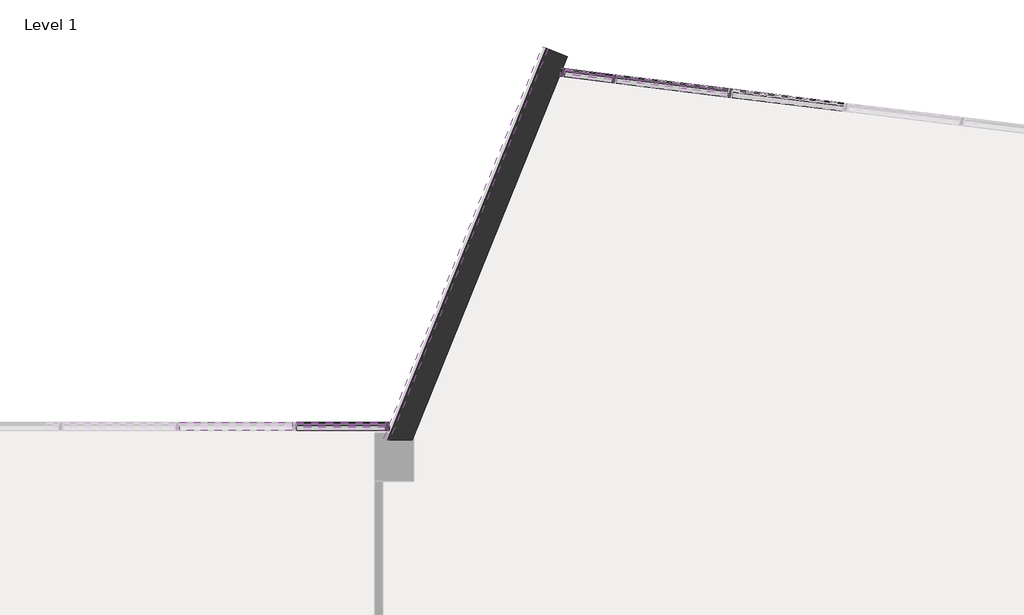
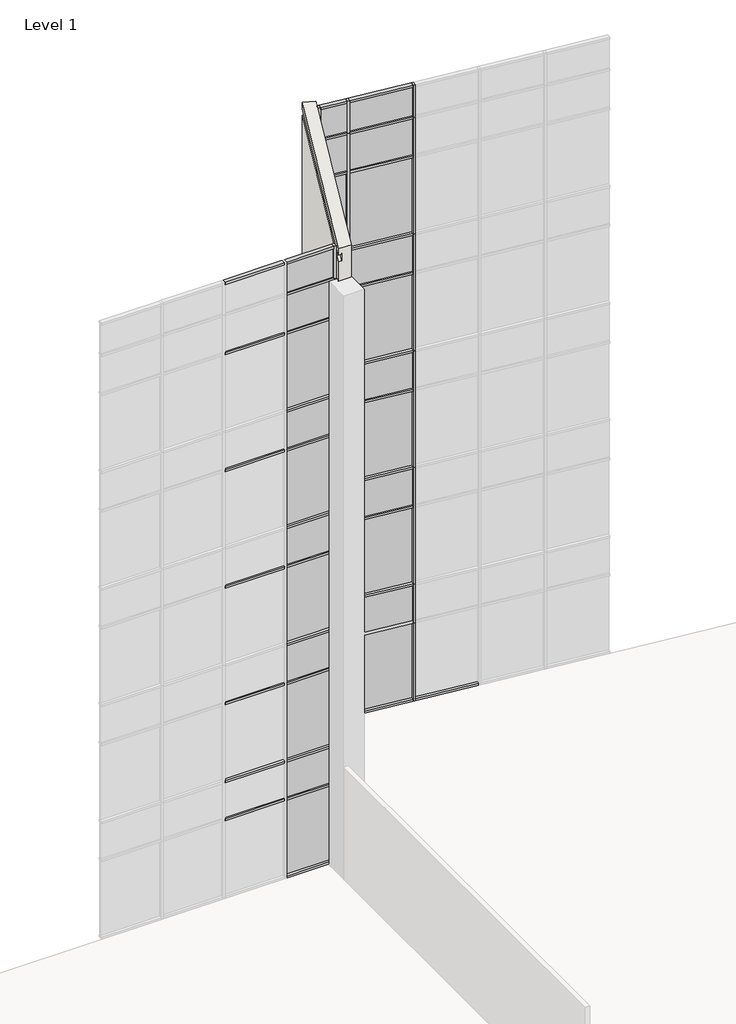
# One storey, part 15 of 23: 71 members, 33 plates, 3 proxies, 1 wall.
"""IFC4 building model written with IfcOpenShell, lengths in millimetres."""

from ifc_helpers import new_model, si_unit, frame, origin, place, context, project, spatial, polyline, outline, extrude, faceted_brep, transform, mapped, element, save
from components import member_2b49869a, member_f92b8aa2, member_810865a4, member_f0fea5a5, member_6d5c3e5e, member_9764dd38, member_8e09d03a, member_4d31274b, member_9db209c3, member_bbc63846, member_ee409385, member_75074519, member_2adbf4d9, member_705e9429, system_panel_glazed_14c75400, system_panel_glazed_df53f363, system_panel_glazed_6d390525, system_panel_solid_5dfe6f83, system_panel_solid_e25e2004, system_panel_solid_b7551183, system_panel_solid_cf908f75, system_panel_solid_7b03d3b8, system_panel_solid_c28df52d, system_panel_solid_db451ef0, system_panel_solid_2f6d7fa1, system_panel_solid_37f52b2b

model = new_model("IFC4")

# Units and contexts
model_context = context("Model", 3, world=origin())
ifc_project = project(units=[si_unit("LENGTHUNIT", "METRE", prefix="MILLI")], contexts=[model_context])

# Site, building, storey
site = spatial("IfcSite", under=ifc_project)
building = spatial("IfcBuilding", under=site)
storey = spatial("IfcBuildingStorey", under=building, Name="Level 1", Elevation=0.0)

# Proxies
placement = place(None, origin())
element("IfcBuildingElementProxy", 1, Name="Reveals", at=placement, inside=storey, context=model_context, shape_type="SweptSolid", body=[
    extrude(outline(polyline([(-32824.629873, 9795.5496433), (-32910.0003265, 9830.0415454), (-30426.2719644, 15977.4849617), (-30340.901511, 15942.9930596), (-32824.629873, 9795.5496433)])), frame((0.0, 0.0, 1625.6), z_axis=(0.0, 0.0, 1.0), x_axis=(1.0, 0.0, 0.0)), (0.0, 0.0, 1.0), 67.7333333),
])
element("IfcBuildingElementProxy", 2, Name="Reveals", at=placement, inside=storey, context=model_context, shape_type="SweptSolid", body=[
    extrude(outline(polyline([(-32824.629873, 9795.5496433), (-32910.0003265, 9830.0415454), (-30426.2719644, 15977.4849617), (-30340.901511, 15942.9930596), (-32824.629873, 9795.5496433)])), frame((0.0, 0.0, 2235.2), z_axis=(0.0, 0.0, 1.0), x_axis=(1.0, 0.0, 0.0)), (0.0, 0.0, 1.0), 67.7333333),
])
element("IfcBuildingElementProxy", 3, Name="Reveals", at=placement, inside=storey, context=model_context, shape_type="SweptSolid", body=[
    extrude(outline(polyline([(-32824.629873, 9795.5496433), (-32910.0003265, 9830.0415454), (-30426.2719644, 15977.4849617), (-30340.901511, 15942.9930596), (-32824.629873, 9795.5496433)])), frame((0.0, 0.0, 2844.8), z_axis=(0.0, 0.0, 1.0), x_axis=(1.0, 0.0, 0.0)), (0.0, 0.0, 1.0), 67.7333333),
])

# Members
member_shape = member_2b49869a(model_context)
element("IfcMember", 4, ObjectType="Rectangular Mullion : 2.5\" x 5\" rectangular", at=placement, inside=storey, context=model_context, shape_type="MappedRepresentation", body=[
    mapped(member_shape, transform((-27482.5203826, 15245.7903744, 2438.4), x_axis=(0.9925461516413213, -0.12186934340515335, 0.0), y_axis=(-0.12186934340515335, -0.9925461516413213, 0.0), z_axis=(0.0, 0.0, -1.0))),
])
element("IfcMember", 5, ObjectType="Rectangular Mullion : 2.5\" x 5\" rectangular", at=placement, inside=storey, context=model_context, shape_type="MappedRepresentation", body=[
    mapped(member_shape, transform((-29297.6887847, 15468.6650296, 2438.4), x_axis=(0.9925461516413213, -0.12186934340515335, 0.0), y_axis=(-0.12186934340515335, -0.9925461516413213, 0.0), z_axis=(0.0, 0.0, -1.0))),
])
member_2_shape = member_f92b8aa2(model_context)
element("IfcMember", 6, ObjectType="Rectangular Mullion : 2.5\" x 5\" rectangular", at=placement, inside=storey, context=model_context, shape_type="MappedRepresentation", body=[
    mapped(member_2_shape, transform((-27482.5203826, 15245.7903744, 18288.0), x_axis=(0.9925461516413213, -0.12186934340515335, 0.0), y_axis=(-0.12186934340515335, -0.9925461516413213, 0.0), z_axis=(0.0, 0.0, -1.0))),
])
element("IfcMember", 7, ObjectType="Rectangular Mullion : 2.5\" x 5\" rectangular", at=placement, inside=storey, context=model_context, shape_type="MappedRepresentation", body=[
    mapped(member_2_shape, transform((-29297.6887847, 15468.6650296, 18288.0), x_axis=(0.9925461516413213, -0.12186934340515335, 0.0), y_axis=(-0.12186934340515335, -0.9925461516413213, 0.0), z_axis=(0.0, 0.0, -1.0))),
])
member_3_shape = member_810865a4(model_context)
element("IfcMember", 8, ObjectType="Rectangular Mullion : 2.5\" x 5\" rectangular", at=placement, inside=storey, context=model_context, shape_type="MappedRepresentation", body=[
    mapped(member_3_shape, transform((-27482.5203826, 15245.7903744, 14630.4), x_axis=(0.9925461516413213, -0.12186934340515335, 0.0), y_axis=(-0.12186934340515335, -0.9925461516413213, 0.0), z_axis=(0.0, 0.0, -1.0))),
])
element("IfcMember", 9, ObjectType="Rectangular Mullion : 2.5\" x 5\" rectangular", at=placement, inside=storey, context=model_context, shape_type="MappedRepresentation", body=[
    mapped(member_3_shape, transform((-27482.5203826, 15245.7903744, 10972.8), x_axis=(0.9925461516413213, -0.12186934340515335, 0.0), y_axis=(-0.12186934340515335, -0.9925461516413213, 0.0), z_axis=(0.0, 0.0, -1.0))),
])
element("IfcMember", 10, ObjectType="Rectangular Mullion : 2.5\" x 5\" rectangular", at=placement, inside=storey, context=model_context, shape_type="MappedRepresentation", body=[
    mapped(member_3_shape, transform((-27482.5203826, 15245.7903744, 7315.2), x_axis=(0.9925461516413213, -0.12186934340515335, 0.0), y_axis=(-0.12186934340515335, -0.9925461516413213, 0.0), z_axis=(0.0, 0.0, -1.0))),
])
element("IfcMember", 11, ObjectType="Rectangular Mullion : 2.5\" x 5\" rectangular", at=placement, inside=storey, context=model_context, shape_type="MappedRepresentation", body=[
    mapped(member_3_shape, transform((-27482.5203826, 15245.7903744, 3657.6), x_axis=(0.9925461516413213, -0.12186934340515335, 0.0), y_axis=(-0.12186934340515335, -0.9925461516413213, 0.0), z_axis=(0.0, 0.0, -1.0))),
])
element("IfcMember", 12, ObjectType="Rectangular Mullion : 2.5\" x 5\" rectangular", at=placement, inside=storey, context=model_context, shape_type="MappedRepresentation", body=[
    mapped(member_3_shape, transform((-29297.6887847, 15468.6650296, 14630.4), x_axis=(0.9925461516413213, -0.12186934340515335, 0.0), y_axis=(-0.12186934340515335, -0.9925461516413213, 0.0), z_axis=(0.0, 0.0, -1.0))),
])
element("IfcMember", 13, ObjectType="Rectangular Mullion : 2.5\" x 5\" rectangular", at=placement, inside=storey, context=model_context, shape_type="MappedRepresentation", body=[
    mapped(member_3_shape, transform((-29297.6887847, 15468.6650296, 10972.8), x_axis=(0.9925461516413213, -0.12186934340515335, 0.0), y_axis=(-0.12186934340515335, -0.9925461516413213, 0.0), z_axis=(0.0, 0.0, -1.0))),
])
element("IfcMember", 14, ObjectType="Rectangular Mullion : 2.5\" x 5\" rectangular", at=placement, inside=storey, context=model_context, shape_type="MappedRepresentation", body=[
    mapped(member_3_shape, transform((-29297.6887847, 15468.6650296, 7315.2), x_axis=(0.9925461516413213, -0.12186934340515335, 0.0), y_axis=(-0.12186934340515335, -0.9925461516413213, 0.0), z_axis=(0.0, 0.0, -1.0))),
])
element("IfcMember", 15, ObjectType="Rectangular Mullion : 2.5\" x 5\" rectangular", at=placement, inside=storey, context=model_context, shape_type="MappedRepresentation", body=[
    mapped(member_3_shape, transform((-29297.6887847, 15468.6650296, 3657.6), x_axis=(0.9925461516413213, -0.12186934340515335, 0.0), y_axis=(-0.12186934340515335, -0.9925461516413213, 0.0), z_axis=(0.0, 0.0, -1.0))),
])
member_4_shape = member_f0fea5a5(model_context)
element("IfcMember", 16, ObjectType="Rectangular Mullion : 2.5\" x 5\" rectangular", at=placement, inside=storey, context=model_context, shape_type="MappedRepresentation", body=[
    mapped(member_4_shape, transform((-27482.5203826, 15245.7903744, 0.0), x_axis=(0.9925461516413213, -0.12186934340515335, 0.0), y_axis=(-0.12186934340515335, -0.9925461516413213, 0.0), z_axis=(0.0, 0.0, -1.0))),
])
element("IfcMember", 17, ObjectType="Rectangular Mullion : 2.5\" x 5\" rectangular", at=placement, inside=storey, context=model_context, shape_type="MappedRepresentation", body=[
    mapped(member_4_shape, transform((-29297.6887847, 15468.6650296, 0.0), x_axis=(0.9925461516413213, -0.12186934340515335, 0.0), y_axis=(-0.12186934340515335, -0.9925461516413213, 0.0), z_axis=(0.0, 0.0, -1.0))),
])
member_5_shape = member_6d5c3e5e(model_context)
element("IfcMember", 18, ObjectType="Rectangular Mullion : 2.5\" x 5\" rectangular", at=placement, inside=storey, context=model_context, shape_type="MappedRepresentation", body=[
    mapped(member_5_shape, transform((-27514.0337229, 15249.659726, 19304.0), x_axis=(0.0, 0.0, 1.0), y_axis=(-0.12186934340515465, -0.9925461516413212, 0.0), z_axis=(0.9925461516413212, -0.12186934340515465, 0.0))),
])
element("IfcMember", 19, ObjectType="Rectangular Mullion : 2.5\" x 5\" rectangular", at=placement, inside=storey, context=model_context, shape_type="MappedRepresentation", body=[
    mapped(member_5_shape, transform((-34348.0123649, 10017.7896508, 19304.0), x_axis=(0.0, 0.0, 1.0), y_axis=(0.0, -1.0, 0.0), z_axis=(1.0, 0.0, 0.0))),
])
member_6_shape = member_9764dd38(model_context)
element("IfcMember", 20, ObjectType="Rectangular Mullion : 2.5\" x 5\" rectangular", at=placement, inside=storey, context=model_context, shape_type="MappedRepresentation", body=[
    mapped(member_6_shape, transform((-34348.0123649, 10017.7896508, 17068.8), x_axis=(0.0, 0.0, 1.0), y_axis=(0.0, -1.0, 0.0), z_axis=(1.0, 0.0, 0.0))),
])
element("IfcMember", 21, ObjectType="Rectangular Mullion : 2.5\" x 5\" rectangular", at=placement, inside=storey, context=model_context, shape_type="MappedRepresentation", body=[
    mapped(member_6_shape, transform((-34348.0123649, 10017.7896508, 13411.2), x_axis=(0.0, 0.0, 1.0), y_axis=(0.0, -1.0, 0.0), z_axis=(1.0, 0.0, 0.0))),
])
element("IfcMember", 22, ObjectType="Rectangular Mullion : 2.5\" x 5\" rectangular", at=placement, inside=storey, context=model_context, shape_type="MappedRepresentation", body=[
    mapped(member_6_shape, transform((-34348.0123649, 10017.7896508, 9753.6), x_axis=(0.0, 0.0, 1.0), y_axis=(0.0, -1.0, 0.0), z_axis=(1.0, 0.0, 0.0))),
])
element("IfcMember", 23, ObjectType="Rectangular Mullion : 2.5\" x 5\" rectangular", at=placement, inside=storey, context=model_context, shape_type="MappedRepresentation", body=[
    mapped(member_6_shape, transform((-34348.0123649, 10017.7896508, 6096.0), x_axis=(0.0, 0.0, 1.0), y_axis=(0.0, -1.0, 0.0), z_axis=(1.0, 0.0, 0.0))),
])
element("IfcMember", 24, ObjectType="Rectangular Mullion : 2.5\" x 5\" rectangular", at=placement, inside=storey, context=model_context, shape_type="MappedRepresentation", body=[
    mapped(member_6_shape, transform((-34348.0123649, 10017.7896508, 2470.15), x_axis=(0.0, 0.0, 1.0), y_axis=(0.0, -1.0, 0.0), z_axis=(1.0, 0.0, 0.0))),
])
element("IfcMember", 25, ObjectType="Rectangular Mullion : 2.5\" x 5\" rectangular", at=placement, inside=storey, context=model_context, shape_type="MappedRepresentation", body=[
    mapped(member_6_shape, transform((-27514.0337229, 15249.659726, 17068.8), x_axis=(0.0, 0.0, 1.0), y_axis=(-0.12186934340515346, -0.9925461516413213, 0.0), z_axis=(0.9925461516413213, -0.12186934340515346, 0.0))),
])
element("IfcMember", 26, ObjectType="Rectangular Mullion : 2.5\" x 5\" rectangular", at=placement, inside=storey, context=model_context, shape_type="MappedRepresentation", body=[
    mapped(member_6_shape, transform((-27514.0337229, 15249.659726, 13411.2), x_axis=(0.0, 0.0, 1.0), y_axis=(-0.12186934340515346, -0.9925461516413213, 0.0), z_axis=(0.9925461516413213, -0.12186934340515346, 0.0))),
])
element("IfcMember", 27, ObjectType="Rectangular Mullion : 2.5\" x 5\" rectangular", at=placement, inside=storey, context=model_context, shape_type="MappedRepresentation", body=[
    mapped(member_6_shape, transform((-27514.0337229, 15249.659726, 9753.6), x_axis=(0.0, 0.0, 1.0), y_axis=(-0.12186934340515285, -0.9925461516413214, 0.0), z_axis=(0.9925461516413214, -0.12186934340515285, 0.0))),
])
element("IfcMember", 28, ObjectType="Rectangular Mullion : 2.5\" x 5\" rectangular", at=placement, inside=storey, context=model_context, shape_type="MappedRepresentation", body=[
    mapped(member_6_shape, transform((-27514.0337229, 15249.659726, 6096.0), x_axis=(0.0, 0.0, 1.0), y_axis=(-0.12186934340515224, -0.9925461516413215, 0.0), z_axis=(0.9925461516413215, -0.12186934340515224, 0.0))),
])
element("IfcMember", 29, ObjectType="Rectangular Mullion : 2.5\" x 5\" rectangular", at=placement, inside=storey, context=model_context, shape_type="MappedRepresentation", body=[
    mapped(member_5_shape, transform((-27451.0070423, 15241.9210227, 0.0), x_axis=(0.0, 0.0, -1.0), y_axis=(-0.12186934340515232, -0.9925461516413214, 0.0), z_axis=(-0.9925461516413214, 0.12186934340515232, 0.0))),
])
element("IfcMember", 30, ObjectType="Rectangular Mullion : 2.5\" x 5\" rectangular", at=placement, inside=storey, context=model_context, shape_type="MappedRepresentation", body=[
    mapped(member_5_shape, transform((-29266.1754444, 15464.7956779, 0.0), x_axis=(0.0, 0.0, -1.0), y_axis=(-0.12186934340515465, -0.9925461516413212, 0.0), z_axis=(-0.9925461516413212, 0.12186934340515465, 0.0))),
])
element("IfcMember", 31, ObjectType="Rectangular Mullion : 2.5\" x 5\" rectangular", at=placement, inside=storey, context=model_context, shape_type="MappedRepresentation", body=[
    mapped(member_6_shape, transform((-27514.0337229, 15249.659726, 10972.8), x_axis=(0.0, 0.0, 1.0), y_axis=(-0.12186934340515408, -0.9925461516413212, 0.0), z_axis=(0.9925461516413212, -0.12186934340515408, 0.0))),
])
element("IfcMember", 32, ObjectType="Rectangular Mullion : 2.5\" x 5\" rectangular", at=placement, inside=storey, context=model_context, shape_type="MappedRepresentation", body=[
    mapped(member_6_shape, transform((-27514.0337229, 15249.659726, 7315.2), x_axis=(0.0, 0.0, 1.0), y_axis=(-0.12186934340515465, -0.9925461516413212, 0.0), z_axis=(0.9925461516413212, -0.12186934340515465, 0.0))),
])
element("IfcMember", 33, ObjectType="Rectangular Mullion : 2.5\" x 5\" rectangular", at=placement, inside=storey, context=model_context, shape_type="MappedRepresentation", body=[
    mapped(member_6_shape, transform((-27514.0337229, 15249.659726, 18288.0), x_axis=(0.0, 0.0, 1.0), y_axis=(-0.12186934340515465, -0.9925461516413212, 0.0), z_axis=(0.9925461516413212, -0.12186934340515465, 0.0))),
])
element("IfcMember", 34, ObjectType="Rectangular Mullion : 2.5\" x 5\" rectangular", at=placement, inside=storey, context=model_context, shape_type="MappedRepresentation", body=[
    mapped(member_6_shape, transform((-27514.0337229, 15249.659726, 14630.4), x_axis=(0.0, 0.0, 1.0), y_axis=(-0.12186934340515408, -0.9925461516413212, 0.0), z_axis=(0.9925461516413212, -0.12186934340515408, 0.0))),
])
element("IfcMember", 35, ObjectType="Rectangular Mullion : 2.5\" x 5\" rectangular", at=placement, inside=storey, context=model_context, shape_type="MappedRepresentation", body=[
    mapped(member_6_shape, transform((-27514.0337229, 15249.659726, 3657.6), x_axis=(0.0, 0.0, 1.0), y_axis=(-0.12186934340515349, -0.9925461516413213, 0.0), z_axis=(0.9925461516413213, -0.12186934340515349, 0.0))),
])
element("IfcMember", 36, ObjectType="Rectangular Mullion : 2.5\" x 5\" rectangular", at=placement, inside=storey, context=model_context, shape_type="MappedRepresentation", body=[
    mapped(member_6_shape, transform((-34348.0123649, 10017.7896508, 3657.6), x_axis=(0.0, 0.0, 1.0), y_axis=(0.0, -1.0, 0.0), z_axis=(1.0, 0.0, 0.0))),
])
member_7_shape = member_8e09d03a(model_context)
element("IfcMember", 37, ObjectType="Rectangular Mullion : 2.5\" x 5\" rectangular", at=placement, inside=storey, context=model_context, shape_type="MappedRepresentation", body=[
    mapped(member_7_shape, transform((-30138.1413273, 15571.859626, 19304.0), x_axis=(-0.9925461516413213, 0.12186934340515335, 0.0), y_axis=(-0.12186934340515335, -0.9925461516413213, 0.0), z_axis=(0.0, 0.0, 1.0))),
])
member_8_shape = member_4d31274b(model_context)
element("IfcMember", 38, ObjectType="Rectangular Mullion : 2.5\" x 5\" rectangular", at=placement, inside=storey, context=model_context, shape_type="MappedRepresentation", body=[
    mapped(member_8_shape, transform((-30138.1413273, 15571.859626, 7315.2), x_axis=(-0.9925461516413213, 0.12186934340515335, 0.0), y_axis=(-0.12186934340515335, -0.9925461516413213, 0.0), z_axis=(0.0, 0.0, 1.0))),
])
element("IfcMember", 39, ObjectType="Rectangular Mullion : 2.5\" x 5\" rectangular", at=placement, inside=storey, context=model_context, shape_type="MappedRepresentation", body=[
    mapped(member_8_shape, transform((-30138.1413273, 15571.859626, 10972.8), x_axis=(-0.9925461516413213, 0.12186934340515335, 0.0), y_axis=(-0.12186934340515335, -0.9925461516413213, 0.0), z_axis=(0.0, 0.0, 1.0))),
])
element("IfcMember", 40, ObjectType="Rectangular Mullion : 2.5\" x 5\" rectangular", at=placement, inside=storey, context=model_context, shape_type="MappedRepresentation", body=[
    mapped(member_8_shape, transform((-30138.1413273, 15571.859626, 14630.4), x_axis=(-0.9925461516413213, 0.12186934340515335, 0.0), y_axis=(-0.12186934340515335, -0.9925461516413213, 0.0), z_axis=(0.0, 0.0, 1.0))),
])
element("IfcMember", 41, ObjectType="Rectangular Mullion : 2.5\" x 5\" rectangular", at=placement, inside=storey, context=model_context, shape_type="MappedRepresentation", body=[
    mapped(member_8_shape, transform((-30138.1413273, 15571.859626, 18288.0), x_axis=(-0.9925461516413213, 0.12186934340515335, 0.0), y_axis=(-0.12186934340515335, -0.9925461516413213, 0.0), z_axis=(0.0, 0.0, 1.0))),
])
member_9_shape = member_9db209c3(model_context)
element("IfcMember", 42, ObjectType="Rectangular Mullion : 2.5\" x 5\" rectangular", at=placement, inside=storey, context=model_context, shape_type="MappedRepresentation", body=[
    mapped(member_9_shape, transform((-32890.1647338, 10017.7896508, 10972.8), x_axis=(0.0, 0.0, 1.0), y_axis=(0.0, -1.0, 0.0), z_axis=(1.0, 0.0, 0.0))),
])
element("IfcMember", 43, ObjectType="Rectangular Mullion : 2.5\" x 5\" rectangular", at=placement, inside=storey, context=model_context, shape_type="MappedRepresentation", body=[
    mapped(member_9_shape, transform((-32890.1647338, 10017.7896508, 7315.2), x_axis=(0.0, 0.0, 1.0), y_axis=(0.0, -1.0, 0.0), z_axis=(1.0, 0.0, 0.0))),
])
element("IfcMember", 44, ObjectType="Rectangular Mullion : 2.5\" x 5\" rectangular", at=placement, inside=storey, context=model_context, shape_type="MappedRepresentation", body=[
    mapped(member_9_shape, transform((-32890.1647338, 10017.7896508, 18288.0), x_axis=(0.0, 0.0, 1.0), y_axis=(0.0, -1.0, 0.0), z_axis=(1.0, 0.0, 0.0))),
])
element("IfcMember", 45, ObjectType="Rectangular Mullion : 2.5\" x 5\" rectangular", at=placement, inside=storey, context=model_context, shape_type="MappedRepresentation", body=[
    mapped(member_9_shape, transform((-32890.1647338, 10017.7896508, 14630.4), x_axis=(0.0, 0.0, 1.0), y_axis=(0.0, -1.0, 0.0), z_axis=(1.0, 0.0, 0.0))),
])
element("IfcMember", 46, ObjectType="Rectangular Mullion : 2.5\" x 5\" rectangular", at=placement, inside=storey, context=model_context, shape_type="MappedRepresentation", body=[
    mapped(member_9_shape, transform((-32890.1647338, 10017.7896508, 3657.6), x_axis=(0.0, 0.0, 1.0), y_axis=(0.0, -1.0, 0.0), z_axis=(1.0, 0.0, 0.0))),
])
member_10_shape = member_bbc63846(model_context)
element("IfcMember", 47, ObjectType="Rectangular Mullion : 2.5\" x 5\" rectangular", at=placement, inside=storey, context=model_context, shape_type="MappedRepresentation", body=[
    mapped(member_10_shape, transform((-34284.5123649, 10017.7896508, 0.0), x_axis=(0.0, 0.0, -1.0), y_axis=(0.0, -1.0, 0.0), z_axis=(-1.0, 0.0, 0.0))),
])
element("IfcMember", 48, ObjectType="Rectangular Mullion : 2.5\" x 5\" rectangular", at=placement, inside=storey, context=model_context, shape_type="MappedRepresentation", body=[
    mapped(member_10_shape, transform((-32890.1647338, 10017.7896508, 19304.0), x_axis=(0.0, 0.0, 1.0), y_axis=(0.0, -1.0, 0.0), z_axis=(1.0, 0.0, 0.0))),
])
element("IfcMember", 49, ObjectType="Rectangular Mullion : 2.5\" x 5\" rectangular", at=placement, inside=storey, context=model_context, shape_type="MappedRepresentation", body=[
    mapped(member_9_shape, transform((-32890.1647338, 10017.7896508, 17068.8), x_axis=(0.0, 0.0, 1.0), y_axis=(0.0, -1.0, 0.0), z_axis=(1.0, 0.0, 0.0))),
])
element("IfcMember", 50, ObjectType="Rectangular Mullion : 2.5\" x 5\" rectangular", at=placement, inside=storey, context=model_context, shape_type="MappedRepresentation", body=[
    mapped(member_9_shape, transform((-32890.1647338, 10017.7896508, 13411.2), x_axis=(0.0, 0.0, 1.0), y_axis=(0.0, -1.0, 0.0), z_axis=(1.0, 0.0, 0.0))),
])
element("IfcMember", 51, ObjectType="Rectangular Mullion : 2.5\" x 5\" rectangular", at=placement, inside=storey, context=model_context, shape_type="MappedRepresentation", body=[
    mapped(member_9_shape, transform((-32890.1647338, 10017.7896508, 9753.6), x_axis=(0.0, 0.0, 1.0), y_axis=(0.0, -1.0, 0.0), z_axis=(1.0, 0.0, 0.0))),
])
element("IfcMember", 52, ObjectType="Rectangular Mullion : 2.5\" x 5\" rectangular", at=placement, inside=storey, context=model_context, shape_type="MappedRepresentation", body=[
    mapped(member_9_shape, transform((-32890.1647338, 10017.7896508, 6096.0), x_axis=(0.0, 0.0, 1.0), y_axis=(0.0, -1.0, 0.0), z_axis=(1.0, 0.0, 0.0))),
])
element("IfcMember", 53, ObjectType="Rectangular Mullion : 2.5\" x 5\" rectangular", at=placement, inside=storey, context=model_context, shape_type="MappedRepresentation", body=[
    mapped(member_9_shape, transform((-32890.1647338, 10017.7896508, 2470.15), x_axis=(0.0, 0.0, 1.0), y_axis=(0.0, -1.0, 0.0), z_axis=(1.0, 0.0, 0.0))),
])
member_11_shape = member_ee409385(model_context)
element("IfcMember", 54, ObjectType="Rectangular Mullion : 2.5\" x 5\" rectangular", at=placement, inside=storey, context=model_context, shape_type="MappedRepresentation", body=[
    mapped(member_11_shape, transform((-32826.6647338, 10017.7896508, 0.0), x_axis=(1.0, 0.0, 0.0), y_axis=(0.0, -1.0, 0.0), z_axis=(0.0, 0.0, -1.0))),
])
element("IfcMember", 55, ObjectType="Rectangular Mullion : 2.5\" x 5\" rectangular", at=placement, inside=storey, context=model_context, shape_type="MappedRepresentation", body=[
    mapped(member_8_shape, transform((-32826.6647338, 10017.7896508, 3657.6), x_axis=(1.0, 0.0, 0.0), y_axis=(0.0, -1.0, 0.0), z_axis=(0.0, 0.0, -1.0))),
])
element("IfcMember", 56, ObjectType="Rectangular Mullion : 2.5\" x 5\" rectangular", at=placement, inside=storey, context=model_context, shape_type="MappedRepresentation", body=[
    mapped(member_8_shape, transform((-32826.6647338, 10017.7896508, 7315.2), x_axis=(1.0, 0.0, 0.0), y_axis=(0.0, -1.0, 0.0), z_axis=(0.0, 0.0, -1.0))),
])
element("IfcMember", 57, ObjectType="Rectangular Mullion : 2.5\" x 5\" rectangular", at=placement, inside=storey, context=model_context, shape_type="MappedRepresentation", body=[
    mapped(member_8_shape, transform((-32826.6647338, 10017.7896508, 10972.8), x_axis=(1.0, 0.0, 0.0), y_axis=(0.0, -1.0, 0.0), z_axis=(0.0, 0.0, -1.0))),
])
element("IfcMember", 58, ObjectType="Rectangular Mullion : 2.5\" x 5\" rectangular", at=placement, inside=storey, context=model_context, shape_type="MappedRepresentation", body=[
    mapped(member_8_shape, transform((-32826.6647338, 10017.7896508, 14630.4), x_axis=(1.0, 0.0, 0.0), y_axis=(0.0, -1.0, 0.0), z_axis=(0.0, 0.0, -1.0))),
])
element("IfcMember", 59, ObjectType="Rectangular Mullion : 2.5\" x 5\" rectangular", at=placement, inside=storey, context=model_context, shape_type="MappedRepresentation", body=[
    mapped(member_7_shape, transform((-32826.6647338, 10017.7896508, 18288.0), x_axis=(1.0, 0.0, 0.0), y_axis=(0.0, -1.0, 0.0), z_axis=(0.0, 0.0, -1.0))),
])
member_12_shape = member_75074519(model_context)
element("IfcMember", 60, ObjectType="Rectangular Mullion : 2.5\" x 5\" rectangular", at=placement, inside=storey, context=model_context, shape_type="MappedRepresentation", body=[
    mapped(member_12_shape, transform((-32826.6647338, 10017.7896508, 2438.4), x_axis=(1.0, 0.0, 0.0), y_axis=(0.0, -1.0, 0.0), z_axis=(0.0, 0.0, -1.0))),
])
member_13_shape = member_2adbf4d9(model_context)
element("IfcMember", 61, ObjectType="Rectangular Mullion : 2.5\" x 5\" rectangular", at=placement, inside=storey, context=model_context, shape_type="MappedRepresentation", body=[
    mapped(member_13_shape, transform((-29329.202125, 15472.5343812, 19304.0), x_axis=(0.0, 0.0, 1.0), y_axis=(-0.1218693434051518, -0.9925461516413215, 0.0), z_axis=(0.9925461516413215, -0.1218693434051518, 0.0))),
])
member_14_shape = member_705e9429(model_context)
element("IfcMember", 62, ObjectType="Rectangular Mullion : 2.5\" x 5\" rectangular", at=placement, inside=storey, context=model_context, shape_type="MappedRepresentation", body=[
    mapped(member_14_shape, transform((-29329.202125, 15472.5343812, 10972.8), x_axis=(0.0, 0.0, 1.0), y_axis=(-0.12186934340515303, -0.9925461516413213, 0.0), z_axis=(0.9925461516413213, -0.12186934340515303, 0.0))),
])
element("IfcMember", 63, ObjectType="Rectangular Mullion : 2.5\" x 5\" rectangular", at=placement, inside=storey, context=model_context, shape_type="MappedRepresentation", body=[
    mapped(member_14_shape, transform((-29329.202125, 15472.5343812, 7315.2), x_axis=(0.0, 0.0, 1.0), y_axis=(-0.1218693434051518, -0.9925461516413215, 0.0), z_axis=(0.9925461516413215, -0.1218693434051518, 0.0))),
])
element("IfcMember", 64, ObjectType="Rectangular Mullion : 2.5\" x 5\" rectangular", at=placement, inside=storey, context=model_context, shape_type="MappedRepresentation", body=[
    mapped(member_14_shape, transform((-29329.202125, 15472.5343812, 18288.0), x_axis=(0.0, 0.0, 1.0), y_axis=(-0.1218693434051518, -0.9925461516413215, 0.0), z_axis=(0.9925461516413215, -0.1218693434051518, 0.0))),
])
element("IfcMember", 65, ObjectType="Rectangular Mullion : 2.5\" x 5\" rectangular", at=placement, inside=storey, context=model_context, shape_type="MappedRepresentation", body=[
    mapped(member_14_shape, transform((-29329.202125, 15472.5343812, 14630.4), x_axis=(0.0, 0.0, 1.0), y_axis=(-0.12186934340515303, -0.9925461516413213, 0.0), z_axis=(0.9925461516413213, -0.12186934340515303, 0.0))),
])
element("IfcMember", 66, ObjectType="Rectangular Mullion : 2.5\" x 5\" rectangular", at=placement, inside=storey, context=model_context, shape_type="MappedRepresentation", body=[
    mapped(member_14_shape, transform((-29329.202125, 15472.5343812, 3657.6), x_axis=(0.0, 0.0, 1.0), y_axis=(-0.12186934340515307, -0.9925461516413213, 0.0), z_axis=(0.9925461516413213, -0.12186934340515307, 0.0))),
])
element("IfcMember", 67, ObjectType="Rectangular Mullion : 2.5\" x 5\" rectangular", at=placement, inside=storey, context=model_context, shape_type="MappedRepresentation", body=[
    mapped(member_13_shape, transform((-30075.1146466, 15564.1209227, 0.0), x_axis=(0.0, 0.0, -1.0), y_axis=(-0.1218693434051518, -0.9925461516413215, 0.0), z_axis=(-0.9925461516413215, 0.1218693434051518, 0.0))),
])
element("IfcMember", 68, ObjectType="Rectangular Mullion : 2.5\" x 5\" rectangular", at=placement, inside=storey, context=model_context, shape_type="MappedRepresentation", body=[
    mapped(member_14_shape, transform((-29329.202125, 15472.5343812, 17068.8), x_axis=(0.0, 0.0, 1.0), y_axis=(-0.121869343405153, -0.9925461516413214, 0.0), z_axis=(0.9925461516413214, -0.121869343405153, 0.0))),
])
element("IfcMember", 69, ObjectType="Rectangular Mullion : 2.5\" x 5\" rectangular", at=placement, inside=storey, context=model_context, shape_type="MappedRepresentation", body=[
    mapped(member_14_shape, transform((-29329.202125, 15472.5343812, 13411.2), x_axis=(0.0, 0.0, 1.0), y_axis=(-0.12186934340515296, -0.9925461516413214, 0.0), z_axis=(0.9925461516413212, -0.12186934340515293, 0.0))),
])
element("IfcMember", 70, ObjectType="Rectangular Mullion : 2.5\" x 5\" rectangular", at=placement, inside=storey, context=model_context, shape_type="MappedRepresentation", body=[
    mapped(member_14_shape, transform((-29329.202125, 15472.5343812, 9753.6), x_axis=(0.0, 0.0, 1.0), y_axis=(-0.121869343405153, -0.9925461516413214, 0.0), z_axis=(0.9925461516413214, -0.121869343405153, 0.0))),
])
element("IfcMember", 71, ObjectType="Rectangular Mullion : 2.5\" x 5\" rectangular", at=placement, inside=storey, context=model_context, shape_type="MappedRepresentation", body=[
    mapped(member_14_shape, transform((-29329.202125, 15472.5343812, 6096.0), x_axis=(0.0, 0.0, 1.0), y_axis=(-0.12186934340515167, -0.9925461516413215, 0.0), z_axis=(0.9925461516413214, -0.12186934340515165, 0.0))),
])
element("IfcMember", 72, ObjectType="Rectangular Mullion : 2.5\" x 5\" rectangular", at=placement, inside=storey, context=model_context, shape_type="MappedRepresentation", body=[
    mapped(member_14_shape, transform((-29329.202125, 15472.5343812, 2470.15), x_axis=(0.0, 0.0, 1.0), y_axis=(-0.12186934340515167, -0.9925461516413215, 0.0), z_axis=(0.9925461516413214, -0.12186934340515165, 0.0))),
])
element("IfcMember", 73, ObjectType="Rectangular Mullion : 2.5\" x 5\" rectangular", at=placement, inside=storey, context=model_context, shape_type="MappedRepresentation", body=[
    mapped(member_11_shape, transform((-30138.1413273, 15571.859626, 2438.4), x_axis=(-0.9925461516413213, 0.12186934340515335, 0.0), y_axis=(-0.12186934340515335, -0.9925461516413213, 0.0), z_axis=(0.0, 0.0, 1.0))),
])
element("IfcMember", 74, ObjectType="Rectangular Mullion : 2.5\" x 5\" rectangular", at=placement, inside=storey, context=model_context, shape_type="MappedRepresentation", body=[
    mapped(member_12_shape, transform((-30138.1413273, 15571.859626, 3657.6), x_axis=(-0.9925461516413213, 0.12186934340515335, 0.0), y_axis=(-0.12186934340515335, -0.9925461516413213, 0.0), z_axis=(0.0, 0.0, 1.0))),
])

# Plates
system_panel_glazed_shape = system_panel_glazed_14c75400(model_context)
element("IfcPlate", 75, ObjectType="System Panel : Glazed", at=placement, inside=storey, context=model_context, shape_type="MappedRepresentation", body=[
    mapped(system_panel_glazed_shape, transform((-28390.1045836, 15357.227702, 14662.15), x_axis=(0.9925461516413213, -0.12186934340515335, 0.0), y_axis=(0.12186934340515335, 0.9925461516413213, 0.0), z_axis=(0.0, 0.0, 1.0))),
])
element("IfcPlate", 76, ObjectType="System Panel : Glazed", at=placement, inside=storey, context=model_context, shape_type="MappedRepresentation", body=[
    mapped(system_panel_glazed_shape, transform((-28390.1045836, 15357.227702, 11004.55), x_axis=(0.9925461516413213, -0.12186934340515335, 0.0), y_axis=(0.12186934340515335, 0.9925461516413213, 0.0), z_axis=(0.0, 0.0, 1.0))),
])
element("IfcPlate", 77, ObjectType="System Panel : Glazed", at=placement, inside=storey, context=model_context, shape_type="MappedRepresentation", body=[
    mapped(system_panel_glazed_shape, transform((-28390.1045836, 15357.227702, 7346.95), x_axis=(0.9925461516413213, -0.12186934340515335, 0.0), y_axis=(0.12186934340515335, 0.9925461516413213, 0.0), z_axis=(0.0, 0.0, 1.0))),
])
element("IfcPlate", 78, ObjectType="System Panel : Glazed", at=placement, inside=storey, context=model_context, shape_type="MappedRepresentation", body=[
    mapped(system_panel_glazed_shape, transform((-28390.1045836, 15357.227702, 3689.35), x_axis=(0.9925461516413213, -0.12186934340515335, 0.0), y_axis=(0.12186934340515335, 0.9925461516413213, 0.0), z_axis=(0.0, 0.0, 1.0))),
])
element("IfcPlate", 79, ObjectType="System Panel : Glazed", at=placement, inside=storey, context=model_context, shape_type="MappedRepresentation", body=[
    mapped(system_panel_glazed_shape, transform((-28390.1045836, 15357.227702, 63.5), x_axis=(0.9925461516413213, -0.12186934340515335, 0.0), y_axis=(0.12186934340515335, 0.9925461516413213, 0.0), z_axis=(0.0, 0.0, 1.0))),
])
system_panel_glazed_2_shape = system_panel_glazed_df53f363(model_context)
element("IfcPlate", 80, ObjectType="System Panel : Glazed", at=placement, inside=storey, context=model_context, shape_type="MappedRepresentation", body=[
    mapped(system_panel_glazed_2_shape, transform((-33587.3385494, 10017.7896508, 14662.15), x_axis=(1.0, 0.0, 0.0), y_axis=(0.0, 1.0, 0.0), z_axis=(0.0, 0.0, 1.0))),
])
element("IfcPlate", 81, ObjectType="System Panel : Glazed", at=placement, inside=storey, context=model_context, shape_type="MappedRepresentation", body=[
    mapped(system_panel_glazed_2_shape, transform((-33587.3385494, 10017.7896508, 11004.55), x_axis=(1.0, 0.0, 0.0), y_axis=(0.0, 1.0, 0.0), z_axis=(0.0, 0.0, 1.0))),
])
element("IfcPlate", 82, ObjectType="System Panel : Glazed", at=placement, inside=storey, context=model_context, shape_type="MappedRepresentation", body=[
    mapped(system_panel_glazed_2_shape, transform((-33587.3385494, 10017.7896508, 7346.95), x_axis=(1.0, 0.0, 0.0), y_axis=(0.0, 1.0, 0.0), z_axis=(0.0, 0.0, 1.0))),
])
element("IfcPlate", 83, ObjectType="System Panel : Glazed", at=placement, inside=storey, context=model_context, shape_type="MappedRepresentation", body=[
    mapped(system_panel_glazed_2_shape, transform((-33587.3385494, 10017.7896508, 3689.35), x_axis=(1.0, 0.0, 0.0), y_axis=(0.0, 1.0, 0.0), z_axis=(0.0, 0.0, 1.0))),
])
element("IfcPlate", 84, ObjectType="System Panel : Glazed", at=placement, inside=storey, context=model_context, shape_type="MappedRepresentation", body=[
    mapped(system_panel_glazed_2_shape, transform((-33587.3385494, 10017.7896508, 63.5), x_axis=(1.0, 0.0, 0.0), y_axis=(0.0, 1.0, 0.0), z_axis=(0.0, 0.0, 1.0))),
])
system_panel_glazed_3_shape = system_panel_glazed_6d390525(model_context)
element("IfcPlate", 85, ObjectType="System Panel : Glazed", at=placement, inside=storey, context=model_context, shape_type="MappedRepresentation", body=[
    mapped(system_panel_glazed_3_shape, transform((-29702.1583858, 15518.327652, 14662.15), x_axis=(0.9925461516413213, -0.12186934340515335, 0.0), y_axis=(0.12186934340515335, 0.9925461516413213, 0.0), z_axis=(0.0, 0.0, 1.0))),
])
element("IfcPlate", 86, ObjectType="System Panel : Glazed", at=placement, inside=storey, context=model_context, shape_type="MappedRepresentation", body=[
    mapped(system_panel_glazed_3_shape, transform((-29702.1583858, 15518.327652, 11004.55), x_axis=(0.9925461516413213, -0.12186934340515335, 0.0), y_axis=(0.12186934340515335, 0.9925461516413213, 0.0), z_axis=(0.0, 0.0, 1.0))),
])
element("IfcPlate", 87, ObjectType="System Panel : Glazed", at=placement, inside=storey, context=model_context, shape_type="MappedRepresentation", body=[
    mapped(system_panel_glazed_3_shape, transform((-29702.1583858, 15518.327652, 7346.95), x_axis=(0.9925461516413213, -0.12186934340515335, 0.0), y_axis=(0.12186934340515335, 0.9925461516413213, 0.0), z_axis=(0.0, 0.0, 1.0))),
])
element("IfcPlate", 88, ObjectType="System Panel : Glazed", at=placement, inside=storey, context=model_context, shape_type="MappedRepresentation", body=[
    mapped(system_panel_glazed_3_shape, transform((-29702.1583858, 15518.327652, 3689.35), x_axis=(0.9925461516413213, -0.12186934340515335, 0.0), y_axis=(0.12186934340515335, 0.9925461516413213, 0.0), z_axis=(0.0, 0.0, 1.0))),
])
element("IfcPlate", 89, ObjectType="System Panel : Glazed", at=placement, inside=storey, context=model_context, shape_type="MappedRepresentation", body=[
    mapped(system_panel_glazed_3_shape, transform((-29702.1583858, 15518.327652, 63.5), x_axis=(0.9925461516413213, -0.12186934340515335, 0.0), y_axis=(0.12186934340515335, 0.9925461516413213, 0.0), z_axis=(0.0, 0.0, 1.0))),
])
system_panel_solid_shape = system_panel_solid_5dfe6f83(model_context)
element("IfcPlate", 90, ObjectType="System Panel : Solid", at=placement, inside=storey, context=model_context, shape_type="MappedRepresentation", body=[
    mapped(system_panel_solid_shape, transform((-28390.1045836, 15357.227702, 18319.75), x_axis=(0.9925461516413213, -0.12186934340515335, 0.0), y_axis=(0.12186934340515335, 0.9925461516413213, 0.0), z_axis=(0.0, 0.0, 1.0))),
])
system_panel_solid_2_shape = system_panel_solid_e25e2004(model_context)
element("IfcPlate", 91, ObjectType="System Panel : Solid", at=placement, inside=storey, context=model_context, shape_type="MappedRepresentation", body=[
    mapped(system_panel_solid_2_shape, transform((-28390.1045836, 15357.227702, 17100.55), x_axis=(0.9925461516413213, -0.12186934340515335, 0.0), y_axis=(0.12186934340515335, 0.9925461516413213, 0.0), z_axis=(0.0, 0.0, 1.0))),
])
element("IfcPlate", 92, ObjectType="System Panel : Solid", at=placement, inside=storey, context=model_context, shape_type="MappedRepresentation", body=[
    mapped(system_panel_solid_2_shape, transform((-28390.1045836, 15357.227702, 13442.95), x_axis=(0.9925461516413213, -0.12186934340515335, 0.0), y_axis=(0.12186934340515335, 0.9925461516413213, 0.0), z_axis=(0.0, 0.0, 1.0))),
])
element("IfcPlate", 93, ObjectType="System Panel : Solid", at=placement, inside=storey, context=model_context, shape_type="MappedRepresentation", body=[
    mapped(system_panel_solid_2_shape, transform((-28390.1045836, 15357.227702, 9785.35), x_axis=(0.9925461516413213, -0.12186934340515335, 0.0), y_axis=(0.12186934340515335, 0.9925461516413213, 0.0), z_axis=(0.0, 0.0, 1.0))),
])
element("IfcPlate", 94, ObjectType="System Panel : Solid", at=placement, inside=storey, context=model_context, shape_type="MappedRepresentation", body=[
    mapped(system_panel_solid_2_shape, transform((-28390.1045836, 15357.227702, 6127.75), x_axis=(0.9925461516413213, -0.12186934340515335, 0.0), y_axis=(0.12186934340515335, 0.9925461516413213, 0.0), z_axis=(0.0, 0.0, 1.0))),
])
system_panel_solid_3_shape = system_panel_solid_b7551183(model_context)
element("IfcPlate", 95, ObjectType="System Panel : Solid", at=placement, inside=storey, context=model_context, shape_type="MappedRepresentation", body=[
    mapped(system_panel_solid_3_shape, transform((-28390.1045836, 15357.227702, 2501.9), x_axis=(0.9925461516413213, -0.12186934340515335, 0.0), y_axis=(0.12186934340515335, 0.9925461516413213, 0.0), z_axis=(0.0, 0.0, 1.0))),
])
system_panel_solid_4_shape = system_panel_solid_cf908f75(model_context)
element("IfcPlate", 96, ObjectType="System Panel : Solid", at=placement, inside=storey, context=model_context, shape_type="MappedRepresentation", body=[
    mapped(system_panel_solid_4_shape, transform((-33587.3385494, 10017.7896508, 18319.75), x_axis=(1.0, 0.0, 0.0), y_axis=(0.0, 1.0, 0.0), z_axis=(0.0, 0.0, 1.0))),
])
system_panel_solid_5_shape = system_panel_solid_7b03d3b8(model_context)
element("IfcPlate", 97, ObjectType="System Panel : Solid", at=placement, inside=storey, context=model_context, shape_type="MappedRepresentation", body=[
    mapped(system_panel_solid_5_shape, transform((-33587.3385494, 10017.7896508, 17100.55), x_axis=(1.0, 0.0, 0.0), y_axis=(0.0, 1.0, 0.0), z_axis=(0.0, 0.0, 1.0))),
])
element("IfcPlate", 98, ObjectType="System Panel : Solid", at=placement, inside=storey, context=model_context, shape_type="MappedRepresentation", body=[
    mapped(system_panel_solid_5_shape, transform((-33587.3385494, 10017.7896508, 13442.95), x_axis=(1.0, 0.0, 0.0), y_axis=(0.0, 1.0, 0.0), z_axis=(0.0, 0.0, 1.0))),
])
element("IfcPlate", 99, ObjectType="System Panel : Solid", at=placement, inside=storey, context=model_context, shape_type="MappedRepresentation", body=[
    mapped(system_panel_solid_5_shape, transform((-33587.3385494, 10017.7896508, 9785.35), x_axis=(1.0, 0.0, 0.0), y_axis=(0.0, 1.0, 0.0), z_axis=(0.0, 0.0, 1.0))),
])
element("IfcPlate", 100, ObjectType="System Panel : Solid", at=placement, inside=storey, context=model_context, shape_type="MappedRepresentation", body=[
    mapped(system_panel_solid_5_shape, transform((-33587.3385494, 10017.7896508, 6127.75), x_axis=(1.0, 0.0, 0.0), y_axis=(0.0, 1.0, 0.0), z_axis=(0.0, 0.0, 1.0))),
])
system_panel_solid_6_shape = system_panel_solid_c28df52d(model_context)
element("IfcPlate", 101, ObjectType="System Panel : Solid", at=placement, inside=storey, context=model_context, shape_type="MappedRepresentation", body=[
    mapped(system_panel_solid_6_shape, transform((-33587.3385494, 10017.7896508, 2501.9), x_axis=(1.0, 0.0, 0.0), y_axis=(0.0, 1.0, 0.0), z_axis=(0.0, 0.0, 1.0))),
])
system_panel_solid_7_shape = system_panel_solid_db451ef0(model_context)
element("IfcPlate", 102, ObjectType="System Panel : Solid", at=placement, inside=storey, context=model_context, shape_type="MappedRepresentation", body=[
    mapped(system_panel_solid_7_shape, transform((-29702.1583858, 15518.327652, 18319.75), x_axis=(0.9925461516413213, -0.12186934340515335, 0.0), y_axis=(0.12186934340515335, 0.9925461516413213, 0.0), z_axis=(0.0, 0.0, 1.0))),
])
system_panel_solid_8_shape = system_panel_solid_2f6d7fa1(model_context)
element("IfcPlate", 103, ObjectType="System Panel : Solid", at=placement, inside=storey, context=model_context, shape_type="MappedRepresentation", body=[
    mapped(system_panel_solid_8_shape, transform((-29702.1583858, 15518.327652, 17100.55), x_axis=(0.9925461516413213, -0.12186934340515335, 0.0), y_axis=(0.12186934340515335, 0.9925461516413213, 0.0), z_axis=(0.0, 0.0, 1.0))),
])
element("IfcPlate", 104, ObjectType="System Panel : Solid", at=placement, inside=storey, context=model_context, shape_type="MappedRepresentation", body=[
    mapped(system_panel_solid_8_shape, transform((-29702.1583858, 15518.327652, 13442.95), x_axis=(0.9925461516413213, -0.12186934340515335, 0.0), y_axis=(0.12186934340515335, 0.9925461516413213, 0.0), z_axis=(0.0, 0.0, 1.0))),
])
element("IfcPlate", 105, ObjectType="System Panel : Solid", at=placement, inside=storey, context=model_context, shape_type="MappedRepresentation", body=[
    mapped(system_panel_solid_8_shape, transform((-29702.1583858, 15518.327652, 9785.35), x_axis=(0.9925461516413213, -0.12186934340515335, 0.0), y_axis=(0.12186934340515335, 0.9925461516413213, 0.0), z_axis=(0.0, 0.0, 1.0))),
])
element("IfcPlate", 106, ObjectType="System Panel : Solid", at=placement, inside=storey, context=model_context, shape_type="MappedRepresentation", body=[
    mapped(system_panel_solid_8_shape, transform((-29702.1583858, 15518.327652, 6127.75), x_axis=(0.9925461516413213, -0.12186934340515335, 0.0), y_axis=(0.12186934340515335, 0.9925461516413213, 0.0), z_axis=(0.0, 0.0, 1.0))),
])
system_panel_solid_9_shape = system_panel_solid_37f52b2b(model_context)
element("IfcPlate", 107, ObjectType="System Panel : Solid", at=placement, inside=storey, context=model_context, shape_type="MappedRepresentation", body=[
    mapped(system_panel_solid_9_shape, transform((-29702.1583858, 15518.327652, 2501.9), x_axis=(0.9925461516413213, -0.12186934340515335, 0.0), y_axis=(0.12186934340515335, 0.9925461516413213, 0.0), z_axis=(0.0, 0.0, 1.0))),
])

# Wall
element("IfcWall", 108, ObjectType="Exterior - Brick and CMU on MTL. Stud", at=placement, inside=storey, context=model_context, shape_type="Brep", body=[
    faceted_brep([(-32468.0777363, 9805.0646508, 0.0), (-30037.689211, 15820.4873384, 0.0), (-30037.689211, 15820.4873384, 19304.0), (-30239.1993217, 15321.7323126, 19304.0), (-30314.3106087, 15135.8253535, 19304.0), (-32468.0777363, 9805.0646508, 19304.0), (-32468.0777363, 9805.0646508, 18262.6), (-32848.1803429, 9805.0646508, 19304.0), (-30364.4519809, 15952.5080671, 19304.0), (-30364.4519809, 15952.5080671, 19100.8), (-32848.1803429, 9805.0646508, 19100.8), (-30364.4519809, 15952.5080671, -406.4), (-32848.1803429, 9805.0646508, -406.4), (-32848.1803429, 9805.0646508, 1016.0), (-30364.4519809, 15952.5080671, 1016.0), (-30364.4519809, 15952.5080671, 1693.3333333), (-32848.1803429, 9805.0646508, 1693.3333333), (-32848.1803429, 9805.0646508, 2235.2), (-30364.4519809, 15952.5080671, 2235.2), (-32848.1803429, 9805.0646508, 1625.6), (-30364.4519809, 15952.5080671, 1625.6), (-30364.4519809, 15952.5080671, 1085.85), (-32848.1803429, 9805.0646508, 1085.85), (-30364.4519809, 15952.5080671, 2302.9333333), (-32848.1803429, 9805.0646508, 2302.9333333), (-32848.1803429, 9805.0646508, 2844.8), (-30364.4519809, 15952.5080671, 2844.8), (-30364.4519809, 15952.5080671, 2912.5333333), (-32848.1803429, 9805.0646508, 2912.5333333), (-32848.1803429, 9805.0646508, 18897.6), (-30364.4519809, 15952.5080671, 18897.6), (-30279.0815275, 15918.016165, 0.0), (-30279.0815275, 15918.016165, -406.4), (-30279.0815275, 15918.016165, 1016.0), (-30279.0815275, 15918.016165, 1085.85), (-30340.901511, 15942.9930596, 1625.6), (-30340.901511, 15942.9930596, 1693.3333333), (-30340.901511, 15942.9930596, 2235.2), (-30340.901511, 15942.9930596, 2302.9333333), (-30340.901511, 15942.9930596, 2844.8), (-30340.901511, 15942.9930596, 2912.5333333), (-30279.0815275, 15918.016165, 18897.6), (-30279.0815275, 15918.016165, 19100.8), (-32748.8742565, 9805.0646508, 19100.8), (-32748.8742565, 9805.0646508, 18897.6), (-32820.7855605, 9805.0646508, 2912.5333333), (-32820.7855605, 9805.0646508, 2844.8), (-32820.7855605, 9805.0646508, 2302.9333333), (-32820.7855605, 9805.0646508, 2235.2), (-32820.7855605, 9805.0646508, 1693.3333333), (-32820.7855605, 9805.0646508, 1625.6), (-32748.8742565, 9805.0646508, 1085.85), (-32748.8742565, 9805.0646508, 1016.0), (-32748.8742565, 9805.0646508, -406.4), (-32748.8742565, 9805.0646508, 0.0)], [[[0, 1, 2, 3, 4, 5, 6]], [[7, 8, 9, 10]], [[11, 12, 13, 14]], [[15, 16, 17, 18]], [[19, 20, 21, 22]], [[23, 24, 25, 26]], [[27, 28, 29, 30]], [[2, 1, 31, 32, 11, 14, 33, 34, 21, 20, 35, 36, 15, 18, 37, 38, 23, 26, 39, 40, 27, 30, 41, 42, 9, 8]], [[5, 4, 3, 2, 8, 7]], [[0, 6, 5, 7, 10, 43, 44, 29, 28, 45, 46, 25, 24, 47, 48, 17, 16, 49, 50, 19, 22, 51, 52, 13, 12, 53, 54]], [[1, 0, 54, 31]], [[31, 54, 53, 32]], [[53, 12, 11, 32]], [[36, 49, 16, 15]], [[50, 35, 20, 19]], [[49, 36, 35, 50]], [[38, 47, 24, 23]], [[48, 37, 18, 17]], [[47, 38, 37, 48]], [[40, 45, 28, 27]], [[46, 39, 26, 25]], [[45, 40, 39, 46]], [[34, 51, 22, 21]], [[52, 33, 14, 13]], [[51, 34, 33, 52]], [[44, 41, 30, 29]], [[41, 44, 43, 42]], [[42, 43, 10, 9]]]),
])

save(model, "model.ifc")
